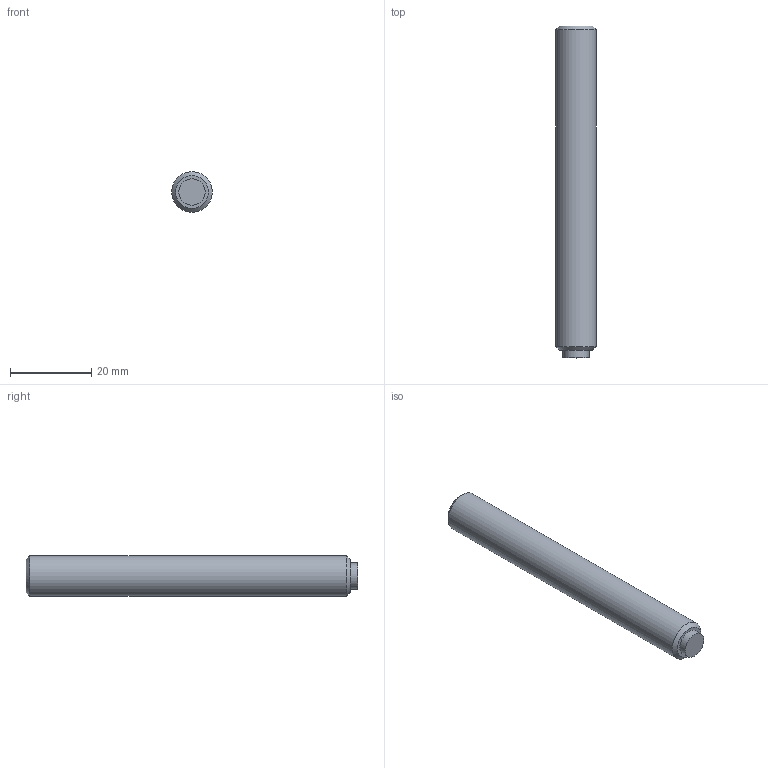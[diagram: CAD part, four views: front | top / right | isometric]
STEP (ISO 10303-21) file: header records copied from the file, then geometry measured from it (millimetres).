
FILE_DESCRIPTION( ( 'STEP AP203' ), '1' );
FILE_NAME( 'C:/Temp/Ganter_Step_05_03_2020/data/3_2/gn913_3/Grub screw GN 913.3-M10-80-KU.stp', '2020-03-13T05:35:40', ( 'License CC BY-ND 4.0' ), ( 'CADENAS' ), ' ', 'PARTsolutions', ' ' );
FILE_SCHEMA( ( 'CONFIG_CONTROL_DESIGN' ) );
Length unit declared in the file: millimetre
Products named in the file (1): _Grub screw GN 913.3-M10-80-KU
Bounding box: 10 x 81.9 x 10 mm (x, y, z)
Volume: 6191.4 mm3; surface area: 2777 mm2
Topology: 1 solids, 1 shells, 14 faces, 28 edges, 18 vertices
Faces by surface type: plane 10, cylinder 2, cone 2
Full cylindrical faces by diameter (mm): 6.5 x1, 10 x1
Entity records: 386 total; most frequent: DIRECTION 60, CARTESIAN_POINT 57, ORIENTED_EDGE 48, EDGE_CURVE 24, AXIS2_PLACEMENT_3D 21, EDGE_LOOP 20, VERTEX_POINT 18, LINE 18
